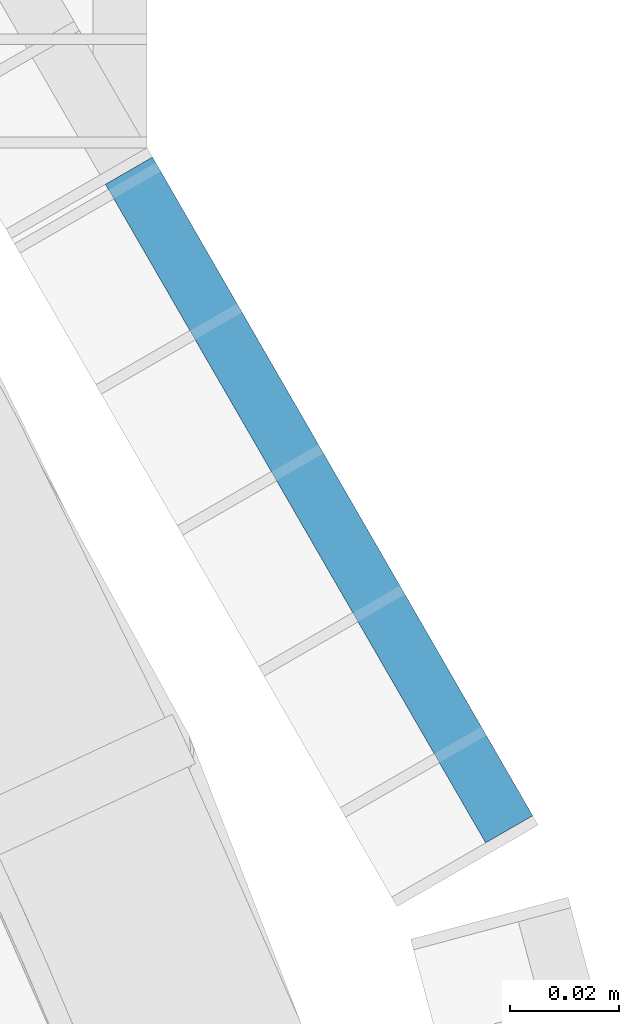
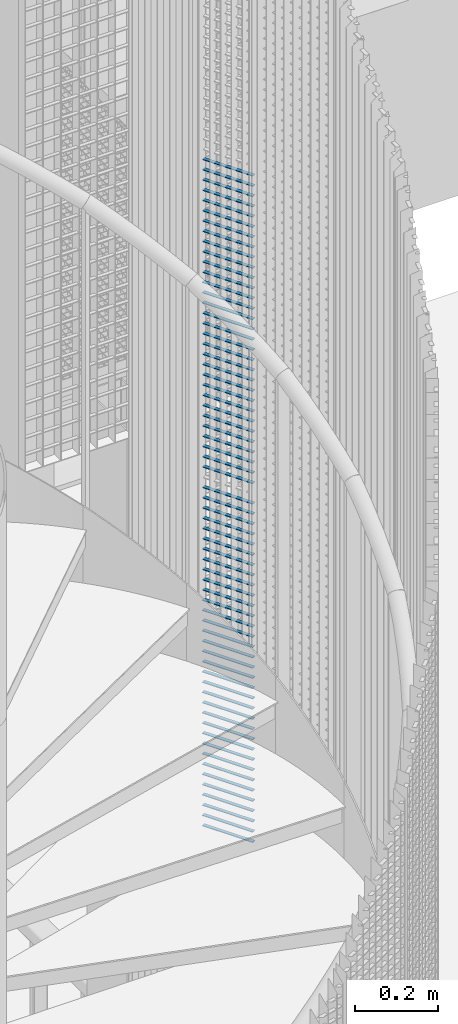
# One storey, part 275 of 1148: 65 beams, 1 element without a shape of its own.
"""IFC2X3 building model written with IfcOpenShell, lengths in millimetres."""

from ifc_helpers import new_model, si_unit, frame, origin_with_axes, origin_2d_with_axis, place, context, subcontext, project, spatial, rectangle, extrude, material, type_object, element, aggregate, save


model = new_model("IFC2X3")

# Units and contexts
model_context = context("Model", 3, precision=1e-05, world=origin_with_axes())
body_context = subcontext(model_context, "Body", "Model", "MODEL_VIEW")
ifc_project = project(units=[si_unit("LENGTHUNIT", "METRE", prefix="MILLI"), si_unit("AREAUNIT", "SQUARE_METRE"), si_unit("VOLUMEUNIT", "CUBIC_METRE"), si_unit("MASSUNIT", "GRAM", prefix="KILO"), si_unit("TIMEUNIT", "SECOND"), si_unit("PLANEANGLEUNIT", "RADIAN"), si_unit("SOLIDANGLEUNIT", "STERADIAN"), si_unit("THERMODYNAMICTEMPERATUREUNIT", "DEGREE_CELSIUS"), si_unit("LUMINOUSINTENSITYUNIT", "LUMEN")], contexts=[model_context])

# Site, building, storey
site_placement = place(None, origin_with_axes())
site = spatial("IfcSite", under=ifc_project, at=site_placement, Name="Undefined", CompositionType="ELEMENT")
building_placement = place(site_placement, origin_with_axes())
building = spatial("IfcBuilding", under=site, at=building_placement, Name="Undefined", CompositionType="ELEMENT")
storey_placement = place(building_placement, origin_with_axes())
storey = spatial("IfcBuildingStorey", under=building, at=storey_placement, Name="Undefined", CompositionType="ELEMENT", Elevation=0.0)

# Assembly, beams
assembly_placement = place(storey_placement, origin_with_axes())
assembly = element("IfcElementAssembly", 1, at=assembly_placement, inside=storey, Name="BORDURE", AssemblyPlace="NOTDEFINED", PredefinedType="NOTDEFINED")
ifc_material = material(Name="STEEL/S235JR")
beam_type = type_object("IfcBeamType", Name="PL2*10", PredefinedType="NOTDEFINED")
beam_1_placement = place(assembly_placement, frame((1033.29994283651, 437.231999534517, 11040.0), z_axis=(0.866030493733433, 0.499991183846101, 0.0), x_axis=(-0.499991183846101, 0.866030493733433, 0.0)))
beam_1 = element("IfcBeam", 2, at=beam_1_placement, type_object=beam_type, material=ifc_material, Name="ENTRETOISE", context=body_context, shape_type="SweptSolid", body=[
    extrude(rectangle(XDim=2.0, YDim=10.0, at=origin_2d_with_axis()), frame((140.102470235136, 0.0, 0.0), z_axis=(-1.0, 0.0, 0.0), x_axis=(0.0, -1.0, 0.0)), (0.0, 0.0, 1.0), 140.1),
])
beam_2_placement = place(assembly_placement, frame((1033.29994283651, 437.231999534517, 11010.0), z_axis=(0.866030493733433, 0.499991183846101, 0.0), x_axis=(-0.499991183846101, 0.866030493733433, 0.0)))
beam_2 = element("IfcBeam", 3, at=beam_2_placement, type_object=beam_type, material=ifc_material, Name="ENTRETOISE", context=body_context, shape_type="SweptSolid", body=[
    extrude(rectangle(XDim=2.0, YDim=10.0, at=origin_2d_with_axis()), frame((140.102470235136, 0.0, 0.0), z_axis=(-1.0, 0.0, 0.0), x_axis=(0.0, -1.0, 0.0)), (0.0, 0.0, 1.0), 140.1),
])
beam_3_placement = place(assembly_placement, frame((1033.29994283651, 437.231999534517, 10980.0), z_axis=(0.866030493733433, 0.499991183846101, 0.0), x_axis=(-0.499991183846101, 0.866030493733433, 0.0)))
beam_3 = element("IfcBeam", 4, at=beam_3_placement, type_object=beam_type, material=ifc_material, Name="ENTRETOISE", context=body_context, shape_type="SweptSolid", body=[
    extrude(rectangle(XDim=2.0, YDim=10.0, at=origin_2d_with_axis()), frame((140.102470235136, 0.0, 0.0), z_axis=(-1.0, 0.0, 0.0), x_axis=(0.0, -1.0, 0.0)), (0.0, 0.0, 1.0), 140.1),
])
beam_4_placement = place(assembly_placement, frame((1033.29994283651, 437.231999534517, 10950.0), z_axis=(0.866030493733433, 0.499991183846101, 0.0), x_axis=(-0.499991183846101, 0.866030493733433, 0.0)))
beam_4 = element("IfcBeam", 5, at=beam_4_placement, type_object=beam_type, material=ifc_material, Name="ENTRETOISE", context=body_context, shape_type="SweptSolid", body=[
    extrude(rectangle(XDim=2.0, YDim=10.0, at=origin_2d_with_axis()), frame((140.102470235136, 0.0, 0.0), z_axis=(-1.0, 0.0, 0.0), x_axis=(0.0, -1.0, 0.0)), (0.0, 0.0, 1.0), 140.1),
])
beam_5_placement = place(assembly_placement, frame((1033.29994283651, 437.231999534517, 10920.0), z_axis=(0.866030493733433, 0.499991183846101, 0.0), x_axis=(-0.499991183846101, 0.866030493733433, 0.0)))
beam_5 = element("IfcBeam", 6, at=beam_5_placement, type_object=beam_type, material=ifc_material, Name="ENTRETOISE", context=body_context, shape_type="SweptSolid", body=[
    extrude(rectangle(XDim=2.0, YDim=10.0, at=origin_2d_with_axis()), frame((140.102470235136, 0.0, 0.0), z_axis=(-1.0, 0.0, 0.0), x_axis=(0.0, -1.0, 0.0)), (0.0, 0.0, 1.0), 140.1),
])
beam_6_placement = place(assembly_placement, frame((1033.29994283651, 437.231999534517, 10890.0), z_axis=(0.866030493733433, 0.499991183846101, 0.0), x_axis=(-0.499991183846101, 0.866030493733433, 0.0)))
beam_6 = element("IfcBeam", 7, at=beam_6_placement, type_object=beam_type, material=ifc_material, Name="ENTRETOISE", context=body_context, shape_type="SweptSolid", body=[
    extrude(rectangle(XDim=2.0, YDim=10.0, at=origin_2d_with_axis()), frame((140.102470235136, 0.0, 0.0), z_axis=(-1.0, 0.0, 0.0), x_axis=(0.0, -1.0, 0.0)), (0.0, 0.0, 1.0), 140.1),
])
beam_7_placement = place(assembly_placement, frame((1033.29994283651, 437.231999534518, 10860.0), z_axis=(0.866030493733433, 0.499991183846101, 0.0), x_axis=(-0.499991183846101, 0.866030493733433, 0.0)))
beam_7 = element("IfcBeam", 8, at=beam_7_placement, type_object=beam_type, material=ifc_material, Name="ENTRETOISE", context=body_context, shape_type="SweptSolid", body=[
    extrude(rectangle(XDim=2.0, YDim=10.0, at=origin_2d_with_axis()), frame((140.102470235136, 0.0, 0.0), z_axis=(-1.0, 0.0, 0.0), x_axis=(0.0, -1.0, 0.0)), (0.0, 0.0, 1.0), 140.1),
])
beam_8_placement = place(assembly_placement, frame((1033.29994283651, 437.231999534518, 10830.0), z_axis=(0.866030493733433, 0.499991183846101, 0.0), x_axis=(-0.499991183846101, 0.866030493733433, 0.0)))
beam_8 = element("IfcBeam", 9, at=beam_8_placement, type_object=beam_type, material=ifc_material, Name="ENTRETOISE", context=body_context, shape_type="SweptSolid", body=[
    extrude(rectangle(XDim=2.0, YDim=10.0, at=origin_2d_with_axis()), frame((140.102470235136, 0.0, 0.0), z_axis=(-1.0, 0.0, 0.0), x_axis=(0.0, -1.0, 0.0)), (0.0, 0.0, 1.0), 140.1),
])
beam_9_placement = place(assembly_placement, frame((1033.29994283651, 437.231999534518, 10800.0), z_axis=(0.866030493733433, 0.499991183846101, 0.0), x_axis=(-0.499991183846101, 0.866030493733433, 0.0)))
beam_9 = element("IfcBeam", 10, at=beam_9_placement, type_object=beam_type, material=ifc_material, Name="ENTRETOISE", context=body_context, shape_type="SweptSolid", body=[
    extrude(rectangle(XDim=2.0, YDim=10.0, at=origin_2d_with_axis()), frame((140.102470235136, 0.0, 0.0), z_axis=(-1.0, 0.0, 0.0), x_axis=(0.0, -1.0, 0.0)), (0.0, 0.0, 1.0), 140.1),
])
beam_10_placement = place(assembly_placement, frame((1033.29994283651, 437.231999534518, 10770.0), z_axis=(0.866030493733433, 0.499991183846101, 0.0), x_axis=(-0.499991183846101, 0.866030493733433, 0.0)))
beam_10 = element("IfcBeam", 11, at=beam_10_placement, type_object=beam_type, material=ifc_material, Name="ENTRETOISE", context=body_context, shape_type="SweptSolid", body=[
    extrude(rectangle(XDim=2.0, YDim=10.0, at=origin_2d_with_axis()), frame((140.102470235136, 0.0, 0.0), z_axis=(-1.0, 0.0, 0.0), x_axis=(0.0, -1.0, 0.0)), (0.0, 0.0, 1.0), 140.1),
])
beam_11_placement = place(assembly_placement, frame((1033.29994283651, 437.231999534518, 10740.0), z_axis=(0.866030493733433, 0.499991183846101, 0.0), x_axis=(-0.499991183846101, 0.866030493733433, 0.0)))
beam_11 = element("IfcBeam", 12, at=beam_11_placement, type_object=beam_type, material=ifc_material, Name="ENTRETOISE", context=body_context, shape_type="SweptSolid", body=[
    extrude(rectangle(XDim=2.0, YDim=10.0, at=origin_2d_with_axis()), frame((140.102470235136, 0.0, 0.0), z_axis=(-1.0, 0.0, 0.0), x_axis=(0.0, -1.0, 0.0)), (0.0, 0.0, 1.0), 140.1),
])
beam_12_placement = place(assembly_placement, frame((1033.29994283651, 437.231999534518, 10710.0), z_axis=(0.866030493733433, 0.499991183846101, 0.0), x_axis=(-0.499991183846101, 0.866030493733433, 0.0)))
beam_12 = element("IfcBeam", 13, at=beam_12_placement, type_object=beam_type, material=ifc_material, Name="ENTRETOISE", context=body_context, shape_type="SweptSolid", body=[
    extrude(rectangle(XDim=2.0, YDim=10.0, at=origin_2d_with_axis()), frame((140.102470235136, 0.0, 0.0), z_axis=(-1.0, 0.0, 0.0), x_axis=(0.0, -1.0, 0.0)), (0.0, 0.0, 1.0), 140.1),
])
beam_13_placement = place(assembly_placement, frame((1033.29994283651, 437.231999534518, 10680.0), z_axis=(0.866030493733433, 0.499991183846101, 0.0), x_axis=(-0.499991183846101, 0.866030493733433, 0.0)))
beam_13 = element("IfcBeam", 14, at=beam_13_placement, type_object=beam_type, material=ifc_material, Name="ENTRETOISE", context=body_context, shape_type="SweptSolid", body=[
    extrude(rectangle(XDim=2.0, YDim=10.0, at=origin_2d_with_axis()), frame((140.102470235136, 0.0, 0.0), z_axis=(-1.0, 0.0, 0.0), x_axis=(0.0, -1.0, 0.0)), (0.0, 0.0, 1.0), 140.1),
])
beam_14_placement = place(assembly_placement, frame((1033.29994283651, 437.231999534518, 10650.0), z_axis=(0.866030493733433, 0.499991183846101, 0.0), x_axis=(-0.499991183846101, 0.866030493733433, 0.0)))
beam_14 = element("IfcBeam", 15, at=beam_14_placement, type_object=beam_type, material=ifc_material, Name="ENTRETOISE", context=body_context, shape_type="SweptSolid", body=[
    extrude(rectangle(XDim=2.0, YDim=10.0, at=origin_2d_with_axis()), frame((140.102470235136, 0.0, 0.0), z_axis=(-1.0, 0.0, 0.0), x_axis=(0.0, -1.0, 0.0)), (0.0, 0.0, 1.0), 140.1),
])
beam_15_placement = place(assembly_placement, frame((1033.29994283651, 437.231999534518, 10620.0), z_axis=(0.866030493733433, 0.499991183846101, 0.0), x_axis=(-0.499991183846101, 0.866030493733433, 0.0)))
beam_15 = element("IfcBeam", 16, at=beam_15_placement, type_object=beam_type, material=ifc_material, Name="ENTRETOISE", context=body_context, shape_type="SweptSolid", body=[
    extrude(rectangle(XDim=2.0, YDim=10.0, at=origin_2d_with_axis()), frame((140.102470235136, 0.0, 0.0), z_axis=(-1.0, 0.0, 0.0), x_axis=(0.0, -1.0, 0.0)), (0.0, 0.0, 1.0), 140.1),
])
beam_16_placement = place(assembly_placement, frame((1033.29994283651, 437.231999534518, 10590.0), z_axis=(0.866030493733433, 0.499991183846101, 0.0), x_axis=(-0.499991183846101, 0.866030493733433, 0.0)))
beam_16 = element("IfcBeam", 17, at=beam_16_placement, type_object=beam_type, material=ifc_material, Name="ENTRETOISE", context=body_context, shape_type="SweptSolid", body=[
    extrude(rectangle(XDim=2.0, YDim=10.0, at=origin_2d_with_axis()), frame((140.102470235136, 0.0, 0.0), z_axis=(-1.0, 0.0, 0.0), x_axis=(0.0, -1.0, 0.0)), (0.0, 0.0, 1.0), 140.1),
])
beam_17_placement = place(assembly_placement, frame((1033.29994283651, 437.231999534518, 10560.0), z_axis=(0.866030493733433, 0.499991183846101, 0.0), x_axis=(-0.499991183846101, 0.866030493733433, 0.0)))
beam_17 = element("IfcBeam", 18, at=beam_17_placement, type_object=beam_type, material=ifc_material, Name="ENTRETOISE", context=body_context, shape_type="SweptSolid", body=[
    extrude(rectangle(XDim=2.0, YDim=10.0, at=origin_2d_with_axis()), frame((140.102470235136, 0.0, 0.0), z_axis=(-1.0, 0.0, 0.0), x_axis=(0.0, -1.0, 0.0)), (0.0, 0.0, 1.0), 140.1),
])
beam_18_placement = place(assembly_placement, frame((1033.29994283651, 437.231999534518, 10530.0), z_axis=(0.866030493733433, 0.499991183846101, 0.0), x_axis=(-0.499991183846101, 0.866030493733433, 0.0)))
beam_18 = element("IfcBeam", 19, at=beam_18_placement, type_object=beam_type, material=ifc_material, Name="ENTRETOISE", context=body_context, shape_type="SweptSolid", body=[
    extrude(rectangle(XDim=2.0, YDim=10.0, at=origin_2d_with_axis()), frame((140.102470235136, 0.0, 0.0), z_axis=(-1.0, 0.0, 0.0), x_axis=(0.0, -1.0, 0.0)), (0.0, 0.0, 1.0), 140.1),
])
beam_19_placement = place(assembly_placement, frame((1033.29994283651, 437.231999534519, 10500.0), z_axis=(0.866030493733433, 0.499991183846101, 0.0), x_axis=(-0.499991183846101, 0.866030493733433, 0.0)))
beam_19 = element("IfcBeam", 20, at=beam_19_placement, type_object=beam_type, material=ifc_material, Name="ENTRETOISE", context=body_context, shape_type="SweptSolid", body=[
    extrude(rectangle(XDim=2.0, YDim=10.0, at=origin_2d_with_axis()), frame((140.102470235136, 0.0, 0.0), z_axis=(-1.0, 0.0, 0.0), x_axis=(0.0, -1.0, 0.0)), (0.0, 0.0, 1.0), 140.1),
])
beam_20_placement = place(assembly_placement, frame((1033.29994283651, 437.231999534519, 10470.0), z_axis=(0.866030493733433, 0.499991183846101, 0.0), x_axis=(-0.499991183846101, 0.866030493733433, 0.0)))
beam_20 = element("IfcBeam", 21, at=beam_20_placement, type_object=beam_type, material=ifc_material, Name="ENTRETOISE", context=body_context, shape_type="SweptSolid", body=[
    extrude(rectangle(XDim=2.0, YDim=10.0, at=origin_2d_with_axis()), frame((140.102470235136, 0.0, 0.0), z_axis=(-1.0, 0.0, 0.0), x_axis=(0.0, -1.0, 0.0)), (0.0, 0.0, 1.0), 140.1),
])
beam_21_placement = place(assembly_placement, frame((1033.29994283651, 437.231999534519, 10440.0), z_axis=(0.866030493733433, 0.499991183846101, 0.0), x_axis=(-0.499991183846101, 0.866030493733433, 0.0)))
beam_21 = element("IfcBeam", 22, at=beam_21_placement, type_object=beam_type, material=ifc_material, Name="ENTRETOISE", context=body_context, shape_type="SweptSolid", body=[
    extrude(rectangle(XDim=2.0, YDim=10.0, at=origin_2d_with_axis()), frame((140.102470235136, 0.0, 0.0), z_axis=(-1.0, 0.0, 0.0), x_axis=(0.0, -1.0, 0.0)), (0.0, 0.0, 1.0), 140.1),
])
beam_22_placement = place(assembly_placement, frame((1033.29994283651, 437.231999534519, 10410.0), z_axis=(0.866030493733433, 0.499991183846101, 0.0), x_axis=(-0.499991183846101, 0.866030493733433, 0.0)))
beam_22 = element("IfcBeam", 23, at=beam_22_placement, type_object=beam_type, material=ifc_material, Name="ENTRETOISE", context=body_context, shape_type="SweptSolid", body=[
    extrude(rectangle(XDim=2.0, YDim=10.0, at=origin_2d_with_axis()), frame((140.102470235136, 0.0, 0.0), z_axis=(-1.0, 0.0, 0.0), x_axis=(0.0, -1.0, 0.0)), (0.0, 0.0, 1.0), 140.1),
])
beam_23_placement = place(assembly_placement, frame((1033.29994283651, 437.231999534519, 10380.0), z_axis=(0.866030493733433, 0.499991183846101, 0.0), x_axis=(-0.499991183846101, 0.866030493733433, 0.0)))
beam_23 = element("IfcBeam", 24, at=beam_23_placement, type_object=beam_type, material=ifc_material, Name="ENTRETOISE", context=body_context, shape_type="SweptSolid", body=[
    extrude(rectangle(XDim=2.0, YDim=10.0, at=origin_2d_with_axis()), frame((140.102470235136, 0.0, 0.0), z_axis=(-1.0, 0.0, 0.0), x_axis=(0.0, -1.0, 0.0)), (0.0, 0.0, 1.0), 140.1),
])
beam_24_placement = place(assembly_placement, frame((1033.29994283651, 437.231999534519, 10350.0), z_axis=(0.866030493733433, 0.499991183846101, 0.0), x_axis=(-0.499991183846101, 0.866030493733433, 0.0)))
beam_24 = element("IfcBeam", 25, at=beam_24_placement, type_object=beam_type, material=ifc_material, Name="ENTRETOISE", context=body_context, shape_type="SweptSolid", body=[
    extrude(rectangle(XDim=2.0, YDim=10.0, at=origin_2d_with_axis()), frame((140.102470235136, 0.0, 0.0), z_axis=(-1.0, 0.0, 0.0), x_axis=(0.0, -1.0, 0.0)), (0.0, 0.0, 1.0), 140.1),
])
beam_25_placement = place(assembly_placement, frame((1033.29994283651, 437.231999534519, 10320.0), z_axis=(0.866030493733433, 0.499991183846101, 0.0), x_axis=(-0.499991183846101, 0.866030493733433, 0.0)))
beam_25 = element("IfcBeam", 26, at=beam_25_placement, type_object=beam_type, material=ifc_material, Name="ENTRETOISE", context=body_context, shape_type="SweptSolid", body=[
    extrude(rectangle(XDim=2.0, YDim=10.0, at=origin_2d_with_axis()), frame((140.102470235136, 0.0, 0.0), z_axis=(-1.0, 0.0, 0.0), x_axis=(0.0, -1.0, 0.0)), (0.0, 0.0, 1.0), 140.1),
])
beam_26_placement = place(assembly_placement, frame((1033.29994283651, 437.231999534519, 10290.0), z_axis=(0.866030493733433, 0.499991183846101, 0.0), x_axis=(-0.499991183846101, 0.866030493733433, 0.0)))
beam_26 = element("IfcBeam", 27, at=beam_26_placement, type_object=beam_type, material=ifc_material, Name="ENTRETOISE", context=body_context, shape_type="SweptSolid", body=[
    extrude(rectangle(XDim=2.0, YDim=10.0, at=origin_2d_with_axis()), frame((140.102470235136, 0.0, 0.0), z_axis=(-1.0, 0.0, 0.0), x_axis=(0.0, -1.0, 0.0)), (0.0, 0.0, 1.0), 140.1),
])
beam_27_placement = place(assembly_placement, frame((1033.29994283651, 437.231999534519, 10260.0), z_axis=(0.866030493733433, 0.499991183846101, 0.0), x_axis=(-0.499991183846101, 0.866030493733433, 0.0)))
beam_27 = element("IfcBeam", 28, at=beam_27_placement, type_object=beam_type, material=ifc_material, Name="ENTRETOISE", context=body_context, shape_type="SweptSolid", body=[
    extrude(rectangle(XDim=2.0, YDim=10.0, at=origin_2d_with_axis()), frame((140.102470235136, 0.0, 0.0), z_axis=(-1.0, 0.0, 0.0), x_axis=(0.0, -1.0, 0.0)), (0.0, 0.0, 1.0), 140.1),
])
beam_28_placement = place(assembly_placement, frame((1033.29994283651, 437.231999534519, 10230.0), z_axis=(0.866030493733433, 0.499991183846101, 0.0), x_axis=(-0.499991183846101, 0.866030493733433, 0.0)))
beam_28 = element("IfcBeam", 29, at=beam_28_placement, type_object=beam_type, material=ifc_material, Name="ENTRETOISE", context=body_context, shape_type="SweptSolid", body=[
    extrude(rectangle(XDim=2.0, YDim=10.0, at=origin_2d_with_axis()), frame((140.102470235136, 0.0, 0.0), z_axis=(-1.0, 0.0, 0.0), x_axis=(0.0, -1.0, 0.0)), (0.0, 0.0, 1.0), 140.1),
])
beam_29_placement = place(assembly_placement, frame((1033.29994283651, 437.231999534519, 10200.0), z_axis=(0.866030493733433, 0.499991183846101, 0.0), x_axis=(-0.499991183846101, 0.866030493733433, 0.0)))
beam_29 = element("IfcBeam", 30, at=beam_29_placement, type_object=beam_type, material=ifc_material, Name="ENTRETOISE", context=body_context, shape_type="SweptSolid", body=[
    extrude(rectangle(XDim=2.0, YDim=10.0, at=origin_2d_with_axis()), frame((140.102470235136, 0.0, 0.0), z_axis=(-1.0, 0.0, 0.0), x_axis=(0.0, -1.0, 0.0)), (0.0, 0.0, 1.0), 140.1),
])
beam_30_placement = place(assembly_placement, frame((1033.29994283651, 437.23199953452, 10170.0), z_axis=(0.866030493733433, 0.499991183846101, 0.0), x_axis=(-0.499991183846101, 0.866030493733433, 0.0)))
beam_30 = element("IfcBeam", 31, at=beam_30_placement, type_object=beam_type, material=ifc_material, Name="ENTRETOISE", context=body_context, shape_type="SweptSolid", body=[
    extrude(rectangle(XDim=2.0, YDim=10.0, at=origin_2d_with_axis()), frame((140.102470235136, 0.0, 0.0), z_axis=(-1.0, 0.0, 0.0), x_axis=(0.0, -1.0, 0.0)), (0.0, 0.0, 1.0), 140.1),
])
beam_31_placement = place(assembly_placement, frame((1033.29994283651, 437.23199953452, 10140.0), z_axis=(0.866030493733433, 0.499991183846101, 0.0), x_axis=(-0.499991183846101, 0.866030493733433, 0.0)))
beam_31 = element("IfcBeam", 32, at=beam_31_placement, type_object=beam_type, material=ifc_material, Name="ENTRETOISE", context=body_context, shape_type="SweptSolid", body=[
    extrude(rectangle(XDim=2.0, YDim=10.0, at=origin_2d_with_axis()), frame((140.102470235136, 0.0, 0.0), z_axis=(-1.0, 0.0, 0.0), x_axis=(0.0, -1.0, 0.0)), (0.0, 0.0, 1.0), 140.1),
])
beam_32_placement = place(assembly_placement, frame((1033.29994283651, 437.231999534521, 9720.0), z_axis=(0.866030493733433, 0.499991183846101, 0.0), x_axis=(-0.499991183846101, 0.866030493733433, 0.0)))
beam_32 = element("IfcBeam", 33, at=beam_32_placement, type_object=beam_type, material=ifc_material, Name="ENTRETOISE", context=body_context, shape_type="SweptSolid", body=[
    extrude(rectangle(XDim=2.0, YDim=10.0, at=origin_2d_with_axis()), frame((140.102470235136, 0.0, 0.0), z_axis=(-1.0, 0.0, 0.0), x_axis=(0.0, -1.0, 0.0)), (0.0, 0.0, 1.0), 140.1),
])
beam_33_placement = place(assembly_placement, frame((1033.29994283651, 437.231999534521, 9690.0), z_axis=(0.866030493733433, 0.499991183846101, 0.0), x_axis=(-0.499991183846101, 0.866030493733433, 0.0)))
beam_33 = element("IfcBeam", 34, at=beam_33_placement, type_object=beam_type, material=ifc_material, Name="ENTRETOISE", context=body_context, shape_type="SweptSolid", body=[
    extrude(rectangle(XDim=2.0, YDim=10.0, at=origin_2d_with_axis()), frame((140.102470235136, 0.0, 0.0), z_axis=(-1.0, 0.0, 0.0), x_axis=(0.0, -1.0, 0.0)), (0.0, 0.0, 1.0), 140.1),
])
beam_34_placement = place(assembly_placement, frame((1033.29994283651, 437.231999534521, 9750.0), z_axis=(0.866030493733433, 0.499991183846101, 0.0), x_axis=(-0.499991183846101, 0.866030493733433, 0.0)))
beam_34 = element("IfcBeam", 35, at=beam_34_placement, type_object=beam_type, material=ifc_material, Name="ENTRETOISE", context=body_context, shape_type="SweptSolid", body=[
    extrude(rectangle(XDim=2.0, YDim=10.0, at=origin_2d_with_axis()), frame((140.102470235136, 0.0, 0.0), z_axis=(-1.0, 0.0, 0.0), x_axis=(0.0, -1.0, 0.0)), (0.0, 0.0, 1.0), 140.1),
])
beam_35_placement = place(assembly_placement, frame((1033.29994283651, 437.231999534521, 9660.0), z_axis=(0.866030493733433, 0.499991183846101, 0.0), x_axis=(-0.499991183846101, 0.866030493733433, 0.0)))
beam_35 = element("IfcBeam", 36, at=beam_35_placement, type_object=beam_type, material=ifc_material, Name="ENTRETOISE", context=body_context, shape_type="SweptSolid", body=[
    extrude(rectangle(XDim=2.0, YDim=10.0, at=origin_2d_with_axis()), frame((140.102470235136, 0.0, 0.0), z_axis=(-1.0, 0.0, 0.0), x_axis=(0.0, -1.0, 0.0)), (0.0, 0.0, 1.0), 140.1),
])
beam_36_placement = place(assembly_placement, frame((1033.29994283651, 437.231999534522, 9630.0), z_axis=(0.866030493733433, 0.499991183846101, 0.0), x_axis=(-0.499991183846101, 0.866030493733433, 0.0)))
beam_36 = element("IfcBeam", 37, at=beam_36_placement, type_object=beam_type, material=ifc_material, Name="ENTRETOISE", context=body_context, shape_type="SweptSolid", body=[
    extrude(rectangle(XDim=2.0, YDim=10.0, at=origin_2d_with_axis()), frame((140.102470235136, 0.0, 0.0), z_axis=(-1.0, 0.0, 0.0), x_axis=(0.0, -1.0, 0.0)), (0.0, 0.0, 1.0), 140.1),
])
beam_37_placement = place(assembly_placement, frame((1033.29994283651, 437.231999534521, 9780.0), z_axis=(0.866030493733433, 0.499991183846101, 0.0), x_axis=(-0.499991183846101, 0.866030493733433, 0.0)))
beam_37 = element("IfcBeam", 38, at=beam_37_placement, type_object=beam_type, material=ifc_material, Name="ENTRETOISE", context=body_context, shape_type="SweptSolid", body=[
    extrude(rectangle(XDim=2.0, YDim=10.0, at=origin_2d_with_axis()), frame((140.102470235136, 0.0, 0.0), z_axis=(-1.0, 0.0, 0.0), x_axis=(0.0, -1.0, 0.0)), (0.0, 0.0, 1.0), 140.1),
])
beam_38_placement = place(assembly_placement, frame((1033.29994283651, 437.231999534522, 9600.0), z_axis=(0.866030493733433, 0.499991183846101, 0.0), x_axis=(-0.499991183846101, 0.866030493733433, 0.0)))
beam_38 = element("IfcBeam", 39, at=beam_38_placement, type_object=beam_type, material=ifc_material, Name="ENTRETOISE", context=body_context, shape_type="SweptSolid", body=[
    extrude(rectangle(XDim=2.0, YDim=10.0, at=origin_2d_with_axis()), frame((140.102470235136, 0.0, 0.0), z_axis=(-1.0, 0.0, 0.0), x_axis=(0.0, -1.0, 0.0)), (0.0, 0.0, 1.0), 140.1),
])
beam_39_placement = place(assembly_placement, frame((1033.29994283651, 437.231999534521, 9810.0), z_axis=(0.866030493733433, 0.499991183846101, 0.0), x_axis=(-0.499991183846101, 0.866030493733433, 0.0)))
beam_39 = element("IfcBeam", 40, at=beam_39_placement, type_object=beam_type, material=ifc_material, Name="ENTRETOISE", context=body_context, shape_type="SweptSolid", body=[
    extrude(rectangle(XDim=2.0, YDim=10.0, at=origin_2d_with_axis()), frame((140.102470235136, 0.0, 0.0), z_axis=(-1.0, 0.0, 0.0), x_axis=(0.0, -1.0, 0.0)), (0.0, 0.0, 1.0), 140.1),
])
beam_40_placement = place(assembly_placement, frame((1033.29994283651, 437.231999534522, 9570.0), z_axis=(0.866030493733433, 0.499991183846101, 0.0), x_axis=(-0.499991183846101, 0.866030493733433, 0.0)))
beam_40 = element("IfcBeam", 41, at=beam_40_placement, type_object=beam_type, material=ifc_material, Name="ENTRETOISE", context=body_context, shape_type="SweptSolid", body=[
    extrude(rectangle(XDim=2.0, YDim=10.0, at=origin_2d_with_axis()), frame((140.102470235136, 0.0, 0.0), z_axis=(-1.0, 0.0, 0.0), x_axis=(0.0, -1.0, 0.0)), (0.0, 0.0, 1.0), 140.1),
])
beam_41_placement = place(assembly_placement, frame((1033.29994283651, 437.231999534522, 9540.0), z_axis=(0.866030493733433, 0.499991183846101, 0.0), x_axis=(-0.499991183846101, 0.866030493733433, 0.0)))
beam_41 = element("IfcBeam", 42, at=beam_41_placement, type_object=beam_type, material=ifc_material, Name="ENTRETOISE", context=body_context, shape_type="SweptSolid", body=[
    extrude(rectangle(XDim=2.0, YDim=10.0, at=origin_2d_with_axis()), frame((140.102470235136, 0.0, 0.0), z_axis=(-1.0, 0.0, 0.0), x_axis=(0.0, -1.0, 0.0)), (0.0, 0.0, 1.0), 140.1),
])
beam_42_placement = place(assembly_placement, frame((1033.29994283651, 437.231999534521, 9840.0), z_axis=(0.866030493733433, 0.499991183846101, 0.0), x_axis=(-0.499991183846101, 0.866030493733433, 0.0)))
beam_42 = element("IfcBeam", 43, at=beam_42_placement, type_object=beam_type, material=ifc_material, Name="ENTRETOISE", context=body_context, shape_type="SweptSolid", body=[
    extrude(rectangle(XDim=2.0, YDim=10.0, at=origin_2d_with_axis()), frame((140.102470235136, 0.0, 0.0), z_axis=(-1.0, 0.0, 0.0), x_axis=(0.0, -1.0, 0.0)), (0.0, 0.0, 1.0), 140.1),
])
beam_43_placement = place(assembly_placement, frame((1033.29994283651, 437.231999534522, 9510.0), z_axis=(0.866030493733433, 0.499991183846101, 0.0), x_axis=(-0.499991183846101, 0.866030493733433, 0.0)))
beam_43 = element("IfcBeam", 44, at=beam_43_placement, type_object=beam_type, material=ifc_material, Name="ENTRETOISE", context=body_context, shape_type="SweptSolid", body=[
    extrude(rectangle(XDim=2.0, YDim=10.0, at=origin_2d_with_axis()), frame((140.102470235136, 0.0, 0.0), z_axis=(-1.0, 0.0, 0.0), x_axis=(0.0, -1.0, 0.0)), (0.0, 0.0, 1.0), 140.1),
])
beam_44_placement = place(assembly_placement, frame((1033.29994283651, 437.231999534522, 9480.0), z_axis=(0.866030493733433, 0.499991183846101, 0.0), x_axis=(-0.499991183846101, 0.866030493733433, 0.0)))
beam_44 = element("IfcBeam", 45, at=beam_44_placement, type_object=beam_type, material=ifc_material, Name="ENTRETOISE", context=body_context, shape_type="SweptSolid", body=[
    extrude(rectangle(XDim=2.0, YDim=10.0, at=origin_2d_with_axis()), frame((140.102470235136, 0.0, 0.0), z_axis=(-1.0, 0.0, 0.0), x_axis=(0.0, -1.0, 0.0)), (0.0, 0.0, 1.0), 140.1),
])
beam_45_placement = place(assembly_placement, frame((1033.29994283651, 437.231999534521, 9870.0), z_axis=(0.866030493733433, 0.499991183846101, 0.0), x_axis=(-0.499991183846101, 0.866030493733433, 0.0)))
beam_45 = element("IfcBeam", 46, at=beam_45_placement, type_object=beam_type, material=ifc_material, Name="ENTRETOISE", context=body_context, shape_type="SweptSolid", body=[
    extrude(rectangle(XDim=2.0, YDim=10.0, at=origin_2d_with_axis()), frame((140.102470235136, 0.0, 0.0), z_axis=(-1.0, 0.0, 0.0), x_axis=(0.0, -1.0, 0.0)), (0.0, 0.0, 1.0), 140.1),
])
beam_46_placement = place(assembly_placement, frame((1033.29994283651, 437.231999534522, 9450.0), z_axis=(0.866030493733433, 0.499991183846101, 0.0), x_axis=(-0.499991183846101, 0.866030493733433, 0.0)))
beam_46 = element("IfcBeam", 47, at=beam_46_placement, type_object=beam_type, material=ifc_material, Name="ENTRETOISE", context=body_context, shape_type="SweptSolid", body=[
    extrude(rectangle(XDim=2.0, YDim=10.0, at=origin_2d_with_axis()), frame((140.102470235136, 0.0, 0.0), z_axis=(-1.0, 0.0, 0.0), x_axis=(0.0, -1.0, 0.0)), (0.0, 0.0, 1.0), 140.1),
])
beam_47_placement = place(assembly_placement, frame((1033.29994283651, 437.231999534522, 9420.0), z_axis=(0.866030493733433, 0.499991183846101, 0.0), x_axis=(-0.499991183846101, 0.866030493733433, 0.0)))
beam_47 = element("IfcBeam", 48, at=beam_47_placement, type_object=beam_type, material=ifc_material, Name="ENTRETOISE", context=body_context, shape_type="SweptSolid", body=[
    extrude(rectangle(XDim=2.0, YDim=10.0, at=origin_2d_with_axis()), frame((140.102470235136, 0.0, 0.0), z_axis=(-1.0, 0.0, 0.0), x_axis=(0.0, -1.0, 0.0)), (0.0, 0.0, 1.0), 140.1),
])
beam_48_placement = place(assembly_placement, frame((1033.29994283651, 437.231999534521, 9900.0), z_axis=(0.866030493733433, 0.499991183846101, 0.0), x_axis=(-0.499991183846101, 0.866030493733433, 0.0)))
beam_48 = element("IfcBeam", 49, at=beam_48_placement, type_object=beam_type, material=ifc_material, Name="ENTRETOISE", context=body_context, shape_type="SweptSolid", body=[
    extrude(rectangle(XDim=2.0, YDim=10.0, at=origin_2d_with_axis()), frame((140.102470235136, 0.0, 0.0), z_axis=(-1.0, 0.0, 0.0), x_axis=(0.0, -1.0, 0.0)), (0.0, 0.0, 1.0), 140.1),
])
beam_49_placement = place(assembly_placement, frame((1033.29994283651, 437.231999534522, 9390.0), z_axis=(0.866030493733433, 0.499991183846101, 0.0), x_axis=(-0.499991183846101, 0.866030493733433, 0.0)))
beam_49 = element("IfcBeam", 50, at=beam_49_placement, type_object=beam_type, material=ifc_material, Name="ENTRETOISE", context=body_context, shape_type="SweptSolid", body=[
    extrude(rectangle(XDim=2.0, YDim=10.0, at=origin_2d_with_axis()), frame((140.102470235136, 0.0, 0.0), z_axis=(-1.0, 0.0, 0.0), x_axis=(0.0, -1.0, 0.0)), (0.0, 0.0, 1.0), 140.1),
])
beam_50_placement = place(assembly_placement, frame((1033.29994283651, 437.23199953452, 9930.0), z_axis=(0.866030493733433, 0.499991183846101, 0.0), x_axis=(-0.499991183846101, 0.866030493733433, 0.0)))
beam_50 = element("IfcBeam", 51, at=beam_50_placement, type_object=beam_type, material=ifc_material, Name="ENTRETOISE", context=body_context, shape_type="SweptSolid", body=[
    extrude(rectangle(XDim=2.0, YDim=10.0, at=origin_2d_with_axis()), frame((140.102470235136, 0.0, 0.0), z_axis=(-1.0, 0.0, 0.0), x_axis=(0.0, -1.0, 0.0)), (0.0, 0.0, 1.0), 140.1),
])
beam_51_placement = place(assembly_placement, frame((1033.29994283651, 437.231999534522, 9360.0), z_axis=(0.866030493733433, 0.499991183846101, 0.0), x_axis=(-0.499991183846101, 0.866030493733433, 0.0)))
beam_51 = element("IfcBeam", 52, at=beam_51_placement, type_object=beam_type, material=ifc_material, Name="ENTRETOISE", context=body_context, shape_type="SweptSolid", body=[
    extrude(rectangle(XDim=2.0, YDim=10.0, at=origin_2d_with_axis()), frame((140.102470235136, 0.0, 0.0), z_axis=(-1.0, 0.0, 0.0), x_axis=(0.0, -1.0, 0.0)), (0.0, 0.0, 1.0), 140.1),
])
beam_52_placement = place(assembly_placement, frame((1033.29994283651, 437.231999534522, 9330.0), z_axis=(0.866030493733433, 0.499991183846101, 0.0), x_axis=(-0.499991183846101, 0.866030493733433, 0.0)))
beam_52 = element("IfcBeam", 53, at=beam_52_placement, type_object=beam_type, material=ifc_material, Name="ENTRETOISE", context=body_context, shape_type="SweptSolid", body=[
    extrude(rectangle(XDim=2.0, YDim=10.0, at=origin_2d_with_axis()), frame((140.102470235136, 0.0, 0.0), z_axis=(-1.0, 0.0, 0.0), x_axis=(0.0, -1.0, 0.0)), (0.0, 0.0, 1.0), 140.1),
])
beam_53_placement = place(assembly_placement, frame((1033.29994283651, 437.23199953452, 9960.0), z_axis=(0.866030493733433, 0.499991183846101, 0.0), x_axis=(-0.499991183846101, 0.866030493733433, 0.0)))
beam_53 = element("IfcBeam", 54, at=beam_53_placement, type_object=beam_type, material=ifc_material, Name="ENTRETOISE", context=body_context, shape_type="SweptSolid", body=[
    extrude(rectangle(XDim=2.0, YDim=10.0, at=origin_2d_with_axis()), frame((140.102470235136, 0.0, 0.0), z_axis=(-1.0, 0.0, 0.0), x_axis=(0.0, -1.0, 0.0)), (0.0, 0.0, 1.0), 140.1),
])
beam_54_placement = place(assembly_placement, frame((1033.29994283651, 437.231999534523, 9300.0), z_axis=(0.866030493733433, 0.499991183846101, 0.0), x_axis=(-0.499991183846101, 0.866030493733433, 0.0)))
beam_54 = element("IfcBeam", 55, at=beam_54_placement, type_object=beam_type, material=ifc_material, Name="ENTRETOISE", context=body_context, shape_type="SweptSolid", body=[
    extrude(rectangle(XDim=2.0, YDim=10.0, at=origin_2d_with_axis()), frame((140.102470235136, 0.0, 0.0), z_axis=(-1.0, 0.0, 0.0), x_axis=(0.0, -1.0, 0.0)), (0.0, 0.0, 1.0), 140.1),
])
beam_55_placement = place(assembly_placement, frame((1033.29994283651, 437.231999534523, 9270.0), z_axis=(0.866030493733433, 0.499991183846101, 0.0), x_axis=(-0.499991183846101, 0.866030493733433, 0.0)))
beam_55 = element("IfcBeam", 56, at=beam_55_placement, type_object=beam_type, material=ifc_material, Name="ENTRETOISE", context=body_context, shape_type="SweptSolid", body=[
    extrude(rectangle(XDim=2.0, YDim=10.0, at=origin_2d_with_axis()), frame((140.102470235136, 0.0, 0.0), z_axis=(-1.0, 0.0, 0.0), x_axis=(0.0, -1.0, 0.0)), (0.0, 0.0, 1.0), 140.1),
])
beam_56_placement = place(assembly_placement, frame((1033.29994283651, 437.23199953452, 9990.0), z_axis=(0.866030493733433, 0.499991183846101, 0.0), x_axis=(-0.499991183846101, 0.866030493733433, 0.0)))
beam_56 = element("IfcBeam", 57, at=beam_56_placement, type_object=beam_type, material=ifc_material, Name="ENTRETOISE", context=body_context, shape_type="SweptSolid", body=[
    extrude(rectangle(XDim=2.0, YDim=10.0, at=origin_2d_with_axis()), frame((140.102470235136, 0.0, 0.0), z_axis=(-1.0, 0.0, 0.0), x_axis=(0.0, -1.0, 0.0)), (0.0, 0.0, 1.0), 140.1),
])
beam_57_placement = place(assembly_placement, frame((1033.29994283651, 437.231999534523, 9240.0), z_axis=(0.866030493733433, 0.499991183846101, 0.0), x_axis=(-0.499991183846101, 0.866030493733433, 0.0)))
beam_57 = element("IfcBeam", 58, at=beam_57_placement, type_object=beam_type, material=ifc_material, Name="ENTRETOISE", context=body_context, shape_type="SweptSolid", body=[
    extrude(rectangle(XDim=2.0, YDim=10.0, at=origin_2d_with_axis()), frame((140.102470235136, 0.0, 0.0), z_axis=(-1.0, 0.0, 0.0), x_axis=(0.0, -1.0, 0.0)), (0.0, 0.0, 1.0), 140.1),
])
beam_58_placement = place(assembly_placement, frame((1033.29994283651, 437.23199953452, 10020.0), z_axis=(0.866030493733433, 0.499991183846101, 0.0), x_axis=(-0.499991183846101, 0.866030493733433, 0.0)))
beam_58 = element("IfcBeam", 59, at=beam_58_placement, type_object=beam_type, material=ifc_material, Name="ENTRETOISE", context=body_context, shape_type="SweptSolid", body=[
    extrude(rectangle(XDim=2.0, YDim=10.0, at=origin_2d_with_axis()), frame((140.102470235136, 0.0, 0.0), z_axis=(-1.0, 0.0, 0.0), x_axis=(0.0, -1.0, 0.0)), (0.0, 0.0, 1.0), 140.1),
])
beam_59_placement = place(assembly_placement, frame((1033.29994283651, 437.231999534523, 9210.0), z_axis=(0.866030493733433, 0.499991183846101, 0.0), x_axis=(-0.499991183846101, 0.866030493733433, 0.0)))
beam_59 = element("IfcBeam", 60, at=beam_59_placement, type_object=beam_type, material=ifc_material, Name="ENTRETOISE", context=body_context, shape_type="SweptSolid", body=[
    extrude(rectangle(XDim=2.0, YDim=10.0, at=origin_2d_with_axis()), frame((140.102470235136, 0.0, 0.0), z_axis=(-1.0, 0.0, 0.0), x_axis=(0.0, -1.0, 0.0)), (0.0, 0.0, 1.0), 140.1),
])
beam_60_placement = place(assembly_placement, frame((1033.29994283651, 437.231999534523, 9180.0), z_axis=(0.866030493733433, 0.499991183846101, 0.0), x_axis=(-0.499991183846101, 0.866030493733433, 0.0)))
beam_60 = element("IfcBeam", 61, at=beam_60_placement, type_object=beam_type, material=ifc_material, Name="ENTRETOISE", context=body_context, shape_type="SweptSolid", body=[
    extrude(rectangle(XDim=2.0, YDim=10.0, at=origin_2d_with_axis()), frame((140.102470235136, 0.0, 0.0), z_axis=(-1.0, 0.0, 0.0), x_axis=(0.0, -1.0, 0.0)), (0.0, 0.0, 1.0), 140.1),
])
beam_61_placement = place(assembly_placement, frame((1033.29994283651, 437.23199953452, 10050.0), z_axis=(0.866030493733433, 0.499991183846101, 0.0), x_axis=(-0.499991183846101, 0.866030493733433, 0.0)))
beam_61 = element("IfcBeam", 62, at=beam_61_placement, type_object=beam_type, material=ifc_material, Name="ENTRETOISE", context=body_context, shape_type="SweptSolid", body=[
    extrude(rectangle(XDim=2.0, YDim=10.0, at=origin_2d_with_axis()), frame((140.102470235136, 0.0, 0.0), z_axis=(-1.0, 0.0, 0.0), x_axis=(0.0, -1.0, 0.0)), (0.0, 0.0, 1.0), 140.1),
])
beam_62_placement = place(assembly_placement, frame((1033.29994283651, 437.231999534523, 9150.0), z_axis=(0.866030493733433, 0.499991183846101, 0.0), x_axis=(-0.499991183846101, 0.866030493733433, 0.0)))
beam_62 = element("IfcBeam", 63, at=beam_62_placement, type_object=beam_type, material=ifc_material, Name="ENTRETOISE", context=body_context, shape_type="SweptSolid", body=[
    extrude(rectangle(XDim=2.0, YDim=10.0, at=origin_2d_with_axis()), frame((140.102470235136, 0.0, 0.0), z_axis=(-1.0, 0.0, 0.0), x_axis=(0.0, -1.0, 0.0)), (0.0, 0.0, 1.0), 140.1),
])
beam_63_placement = place(assembly_placement, frame((1033.29994283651, 437.231999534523, 9120.0), z_axis=(0.866030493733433, 0.499991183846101, 0.0), x_axis=(-0.499991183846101, 0.866030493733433, 0.0)))
beam_63 = element("IfcBeam", 64, at=beam_63_placement, type_object=beam_type, material=ifc_material, Name="ENTRETOISE", context=body_context, shape_type="SweptSolid", body=[
    extrude(rectangle(XDim=2.0, YDim=10.0, at=origin_2d_with_axis()), frame((140.102470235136, 0.0, 0.0), z_axis=(-1.0, 0.0, 0.0), x_axis=(0.0, -1.0, 0.0)), (0.0, 0.0, 1.0), 140.1),
])
beam_64_placement = place(assembly_placement, frame((1033.29994283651, 437.23199953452, 10080.0), z_axis=(0.866030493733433, 0.499991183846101, 0.0), x_axis=(-0.499991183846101, 0.866030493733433, 0.0)))
beam_64 = element("IfcBeam", 65, at=beam_64_placement, type_object=beam_type, material=ifc_material, Name="ENTRETOISE", context=body_context, shape_type="SweptSolid", body=[
    extrude(rectangle(XDim=2.0, YDim=10.0, at=origin_2d_with_axis()), frame((140.102470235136, 0.0, 0.0), z_axis=(-1.0, 0.0, 0.0), x_axis=(0.0, -1.0, 0.0)), (0.0, 0.0, 1.0), 140.1),
])
beam_65_placement = place(assembly_placement, frame((1033.29994283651, 437.231999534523, 9090.0), z_axis=(0.866030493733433, 0.499991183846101, 0.0), x_axis=(-0.499991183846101, 0.866030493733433, 0.0)))
beam_65 = element("IfcBeam", 66, at=beam_65_placement, type_object=beam_type, material=ifc_material, Name="ENTRETOISE", context=body_context, shape_type="SweptSolid", body=[
    extrude(rectangle(XDim=2.0, YDim=10.0, at=origin_2d_with_axis()), frame((140.102470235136, 0.0, 0.0), z_axis=(-1.0, 0.0, 0.0), x_axis=(0.0, -1.0, 0.0)), (0.0, 0.0, 1.0), 140.1),
])
aggregate(assembly, [beam_1, beam_2, beam_3, beam_4, beam_5, beam_6, beam_7, beam_8, beam_9, beam_10, beam_11, beam_12, beam_13, beam_14, beam_15, beam_16, beam_17, beam_18, beam_19, beam_20, beam_21, beam_22, beam_23, beam_24, beam_25, beam_26, beam_27, beam_28, beam_29, beam_30, beam_31, beam_32, beam_33, beam_34, beam_35, beam_36, beam_37, beam_38, beam_39, beam_40, beam_41, beam_42, beam_43, beam_44, beam_45, beam_46, beam_47, beam_48, beam_49, beam_50, beam_51, beam_52, beam_53, beam_54, beam_55, beam_56, beam_57, beam_58, beam_59, beam_60, beam_61, beam_62, beam_63, beam_64, beam_65])

save(model, "model.ifc")
